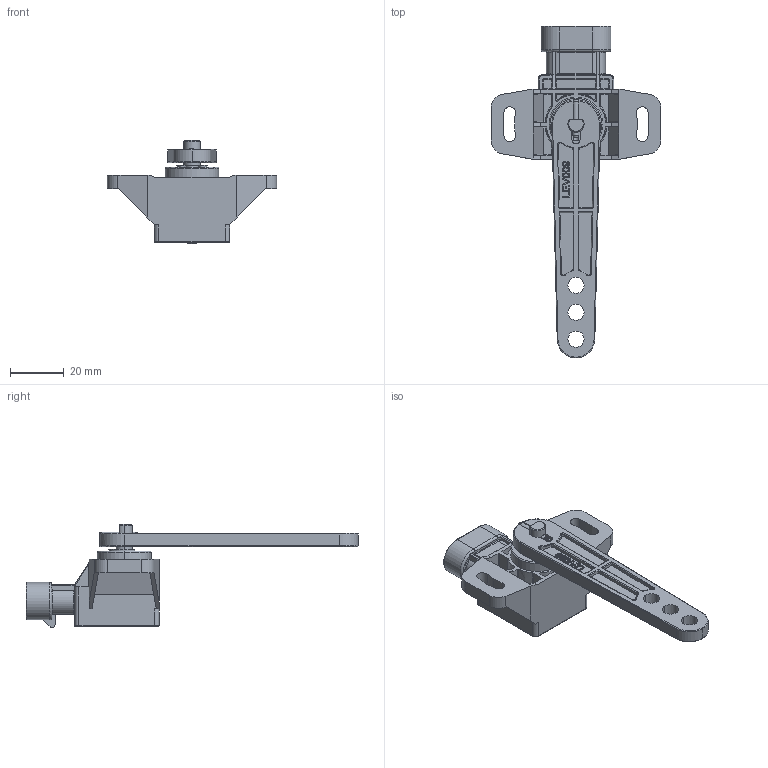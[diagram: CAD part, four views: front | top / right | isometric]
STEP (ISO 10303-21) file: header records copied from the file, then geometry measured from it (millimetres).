
FILE_DESCRIPTION (( 'STEP AP203' ), '1' );
FILE_NAME ('GR3PA S5E1LS xxx xxxx D0.STEP', '2024-12-19T15:16:52', ( '' ), ( '' ), 'SwSTEP 2.0', 'SolidWorks 2024', '' );
FILE_SCHEMA (( 'CONFIG_CONTROL_DESIGN' ));
Length unit declared in the file: millimetre
Products named in the file (1): GR3PA S5E1LS xxx xxxx D0
Bounding box: 63 x 123.5 x 38.47 mm (x, y, z)
Volume: 30649 mm3; surface area: 17892.5 mm2
Topology: 9 solids, 9 shells, 784 faces, 1933 edges, 1171 vertices
Faces by surface type: plane 292, cylinder 268, bspline 81, torus 70, sphere 40, cone 33
Entity records: 27685 total; most frequent: CARTESIAN_POINT 9631, ORIENTED_EDGE 3794, DIRECTION 3678, EDGE_CURVE 1897, AXIS2_PLACEMENT_3D 1345, VERTEX_POINT 1171, VECTOR 988, LINE 988
